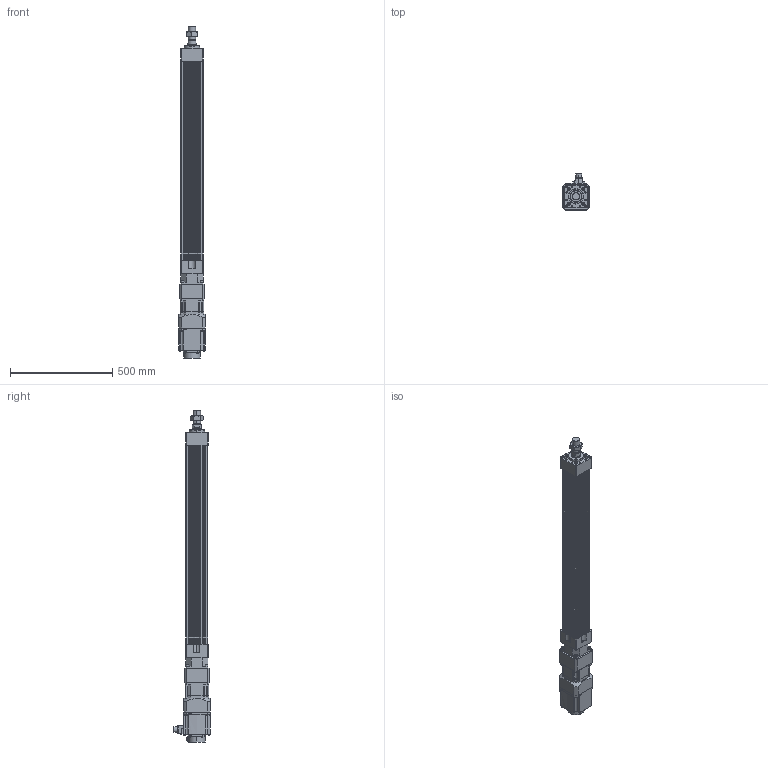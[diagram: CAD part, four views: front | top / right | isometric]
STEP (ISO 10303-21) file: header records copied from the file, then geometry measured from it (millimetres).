
FILE_DESCRIPTION (( 'STEP AP203' ), '1' );
FILE_NAME ('HES110NS(HS)-S800-W015G00-M.STEP', '2023-01-27T11:18:16', ( 'tms' ), ( '' ), 'SwSTEP 2.0', 'SolidWorks 2013', '' );
FILE_SCHEMA (( 'CONFIG_CONTROL_DESIGN' ));
Length unit declared in the file: millimetre
Products named in the file (8): HG-SR152; M36X1.5P; AB1151; HES110NS(HS)-S800-W015G00-M; HES110 ROD M ST800; AB115-003[HG-SR152]; HES110-S800-G120; P0401400706
Assembly tree (7 placements, depth 3):
  HES110NS(HS)-S800-W015G00-M
    HES110-S800-G120
    HES110 ROD M ST800
    M36X1.5P
    AB115-003[HG-SR152]
      AB1151
      P0401400706
    HG-SR152
Bounding box: 130 x 177.49 x 1621.5 mm (x, y, z)
Volume: 10244223.9 mm3; surface area: 1483732.8 mm2
Topology: 4 solids, 15 shells, 1202 faces, 3026 edges, 1951 vertices
Faces by surface type: plane 551, cylinder 537, cone 102, bspline 8, torus 4
Entity records: 37654 total; most frequent: CARTESIAN_POINT 7134, DIRECTION 6533, ORIENTED_EDGE 5960, EDGE_CURVE 2990, AXIS2_PLACEMENT_3D 2410, VERTEX_POINT 1951, VECTOR 1713, LINE 1713
